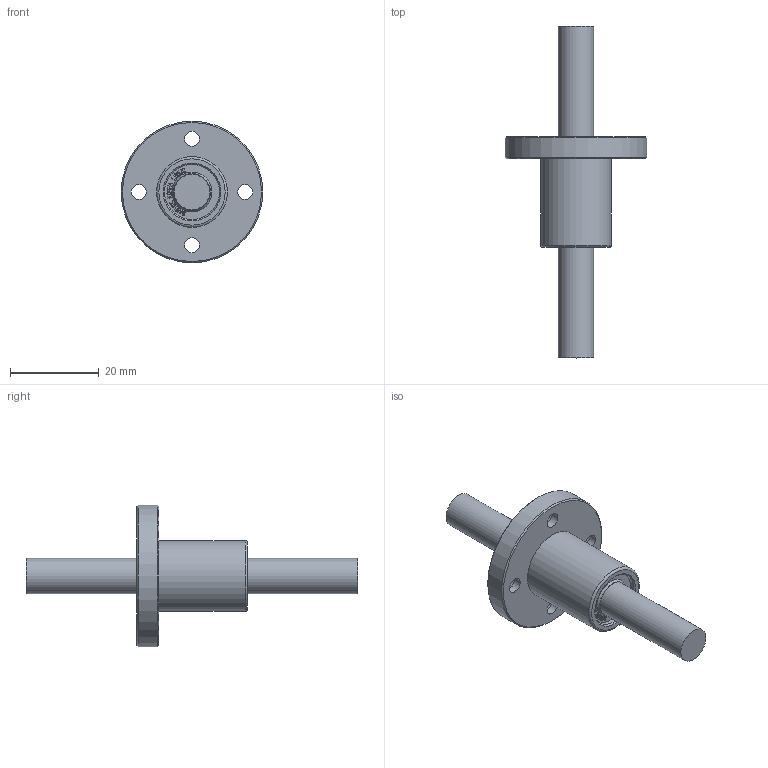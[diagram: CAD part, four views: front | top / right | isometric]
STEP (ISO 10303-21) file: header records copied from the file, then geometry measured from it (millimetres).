
FILE_DESCRIPTION(/* description */ (''),/* implementation_level */ '2;1');
FILE_NAME(/* name */ 'W:\(01) 2024년 홈페이지 CAD파일 최신화\LMEF\IPT\LMEF08UU.stp',/* time_stamp */ '2025-01-25T10:27:49+09:00',/* author */ ('서우현'),/* organization */ (''),/* preprocessor_version */ 'ST-DEVELOPER v17.2',/* originating_system */ 'Autodesk Inventor 2019',/* authorisation */ '');
FILE_SCHEMA (('AUTOMOTIVE_DESIGN { 1 0 10303 214 3 1 1 }'));
Length unit declared in the file: millimetre
Products named in the file (1): LM5
Bounding box: 32 x 75 x 32 mm (x, y, z)
Volume: 9873.6 mm3; surface area: 4789 mm2
Topology: 1 solids, 1 shells, 823 faces, 2321 edges, 1556 vertices
Faces by surface type: bspline 580, plane 220, cylinder 15, cone 6, torus 2
Full cylindrical faces by diameter (mm): 3.4 x4, 6.5 x4, 8 x2, 12.4 x2, 16 x2, 32 x1
Entity records: 28518 total; most frequent: CARTESIAN_POINT 10689, ORIENTED_EDGE 4642, EDGE_CURVE 2321, DIRECTION 1723, VERTEX_POINT 1556, B_SPLINE_CURVE_WITH_KNOTS 1160, LINE 1087, VECTOR 1087
